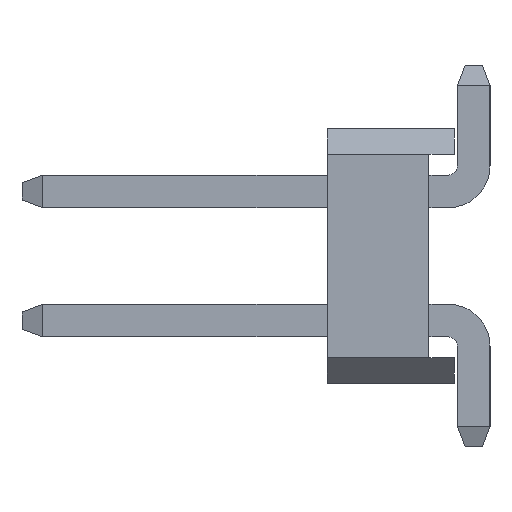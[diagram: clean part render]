
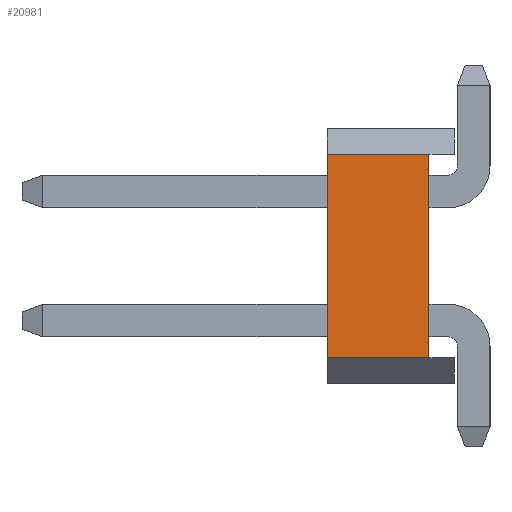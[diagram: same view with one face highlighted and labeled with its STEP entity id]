
A CAD part, left-side view. The second image highlights one B-rep face of the part: STEP entity #20981.
In plain terms, the highlighted planar face has unit normal (-1, 0, 0).
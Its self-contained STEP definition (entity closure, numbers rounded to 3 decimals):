
#395=FACE_OUTER_BOUND('',#1681,.T.);
#1681=EDGE_LOOP('',(#13727,#13728,#13729,#13730));
#3055=LINE('',#29549,#5931);
#3056=LINE('',#29551,#5932);
#3057=LINE('',#29553,#5933);
#3058=LINE('',#29554,#5934);
#5931=VECTOR('',#23785,10.);
#5932=VECTOR('',#23786,10.);
#5933=VECTOR('',#23787,10.);
#5934=VECTOR('',#23788,10.);
#8792=VERTEX_POINT('',#29514);
#8795=VERTEX_POINT('',#29522);
#8807=VERTEX_POINT('',#29550);
#8808=VERTEX_POINT('',#29552);
#10699=EDGE_CURVE('',#8795,#8792,#3055,.T.);
#10700=EDGE_CURVE('',#8792,#8807,#3056,.T.);
#10701=EDGE_CURVE('',#8807,#8808,#3057,.T.);
#10702=EDGE_CURVE('',#8795,#8808,#3058,.T.);
#13727=ORIENTED_EDGE('',*,*,#10699,.T.);
#13728=ORIENTED_EDGE('',*,*,#10700,.T.);
#13729=ORIENTED_EDGE('',*,*,#10701,.T.);
#13730=ORIENTED_EDGE('',*,*,#10702,.F.);
#19771=PLANE('',#22323);
#20981=ADVANCED_FACE('',(#395),#19771,.T.);
#22323=AXIS2_PLACEMENT_3D('',#29548,#23783,#23784);
#23783=DIRECTION('center_axis',(-1.,0.,0.));
#23784=DIRECTION('ref_axis',(0.,0.,1.));
#23785=DIRECTION('',(0.,0.,1.));
#23786=DIRECTION('',(0.,1.,0.));
#23787=DIRECTION('',(0.,0.,-1.));
#23788=DIRECTION('',(0.,1.,0.));
#29514=CARTESIAN_POINT('',(-40.6,6.9,4.5));
#29522=CARTESIAN_POINT('',(-40.6,6.9,0.5));
#29548=CARTESIAN_POINT('Origin',(-40.6,6.4,0.5));
#29549=CARTESIAN_POINT('',(-40.6,6.9,1.5));
#29550=CARTESIAN_POINT('',(-40.6,8.9,4.5));
#29551=CARTESIAN_POINT('',(-40.6,6.4,4.5));
#29552=CARTESIAN_POINT('',(-40.6,8.9,0.5));
#29553=CARTESIAN_POINT('',(-40.6,8.9,5.));
#29554=CARTESIAN_POINT('',(-40.6,6.4,0.5));
